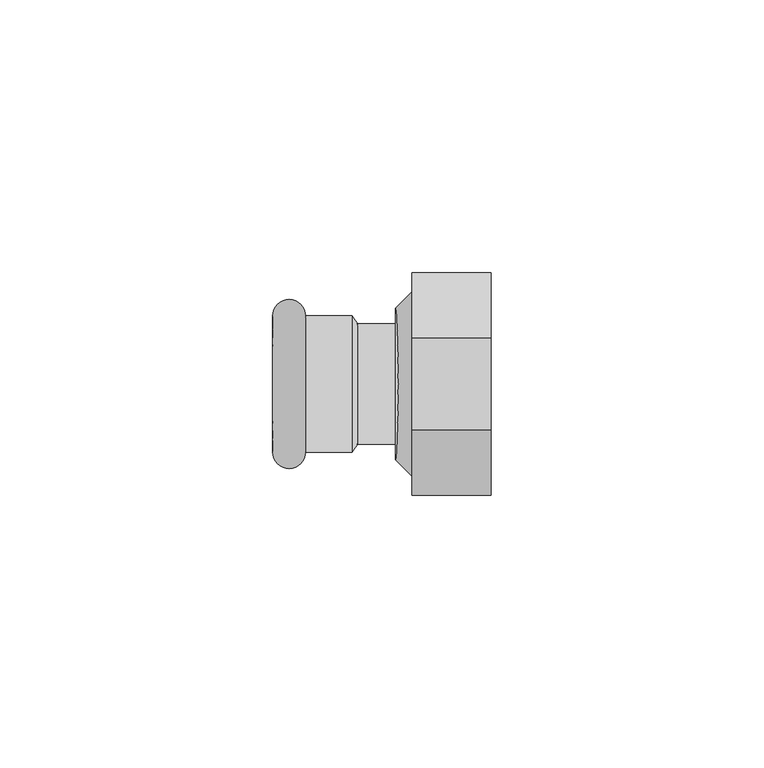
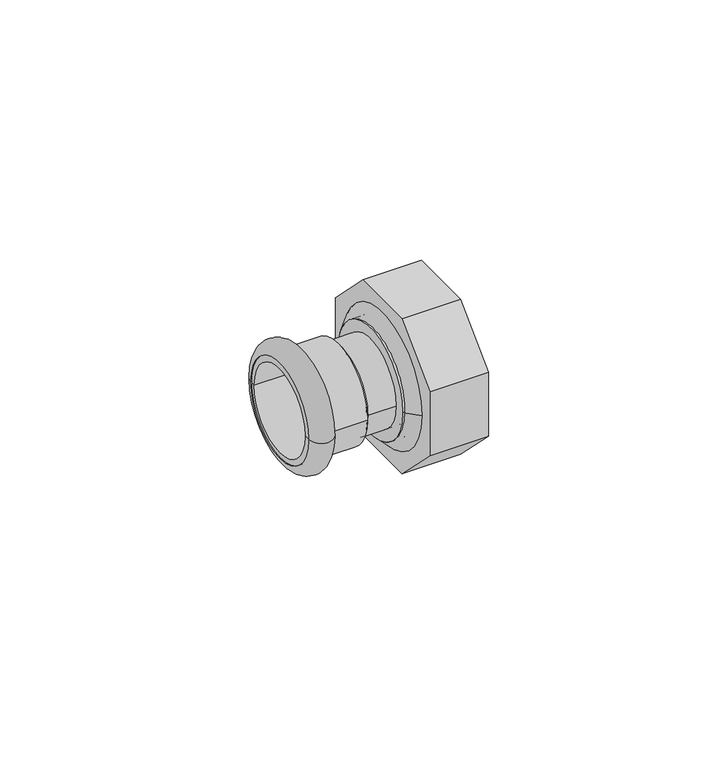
"""IFC4 building model written with IfcOpenShell, lengths in millimetres: pipe fitting geometry."""

from ifc_helpers import new_model, si_unit, point, frame, origin, origin_2d, place, context, project, spatial, polyline, circle_curve, ellipse_curve, trimmed, segment, composite_curve, outline, extrude, source, transform, mapped, element, save
from ifc_brep_helpers import plane_surface, cylinder_surface, revolved_surface, advanced_brep


def pipe_fitting_fde87e36(model_context):
    return source(origin(), model_context, "Body", "SolidModel", [
        advanced_brep(
        [(-20.0, 12.5, 0.0), (-20.0, -12.5, 0.0), (-13.9987073, -12.5, 0.0), (-13.9987073, 12.5, 0.0)],
        [
            (0, 1, circle_curve(frame((-20.0, 0.0, 0.0), z_axis=(-1.0, 0.0, 0.0), x_axis=(0.0, -1.0000000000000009, 0.0)), 12.5)),
            (1, 2),
            (2, 3, circle_curve(frame((-13.9987073, 0.0, 0.0), z_axis=(1.0, 0.0, 0.0), x_axis=(0.0, -1.0000000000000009, 0.0)), 12.5)),
            (3, 0),
            (1, 0, circle_curve(frame((-20.0, 0.0, 0.0), z_axis=(-1.0, 0.0, 0.0), x_axis=(0.0, -1.0000000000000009, 0.0)), 12.5)),
            (3, 2, circle_curve(frame((-13.9987073, 0.0, 0.0), z_axis=(1.0, 0.0, 0.0), x_axis=(0.0, -1.0000000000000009, 0.0)), 12.5)),
            (2, 1, circle_curve(frame((-16.9993536, -12.5, 0.0), z_axis=(0.0, 0.0, -1.0000000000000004), x_axis=(-1.0000000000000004, 0.0, 0.0)), 3.0006464)),
            (0, 3, circle_curve(frame((-16.9993536, 12.5, 0.0), z_axis=(0.0, 0.0, -1.0000000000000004), x_axis=(-1.0000000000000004, 0.0, 0.0)), 3.0006464)),
        ],
        [
            revolved_surface(polyline([(-13.998707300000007, -12.50000000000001, 0.0), (-20.000000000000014, -12.50000000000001, 0.0)]), (-5.5, 0.0, 0.0), (1.0000000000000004, 0.0, 0.0)),
            revolved_surface(trimmed(ellipse_curve(frame((-16.9993536, -12.5, 0.0), z_axis=(0.0, 0.0, 1.0000000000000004), x_axis=(-1.0000000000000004, 0.0, 0.0)), 3.0006464, 3.0006464), [point((-20.0, -12.5, 0.0))], [point((-13.9987073, -12.5, 0.0))], True, "CARTESIAN"), (-5.5, 0.0, 0.0), (1.0000000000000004, 0.0, 0.0)),
        ],
        [
            (0, [[1, 2, 3, 4]]),
            (0, [[5, -4, 6, -2]]),
            (1, [[-3, 7, -1, 8]]),
            (1, [[-6, -8, -5, -7]]),
        ],
    ),
        advanced_brep(
        [(-20.0, 11.0, 0.0), (-20.0, -11.0, 0.0), (-4.5, -11.0, 0.0), (-4.5, 11.0, 0.0), (-20.0, 12.5, 0.0), (-20.0, -12.5, 0.0), (-5.5, 12.5, 0.0), (-5.5, -12.5, 0.0)],
        [
            (0, 1, circle_curve(frame((-20.0, 0.0, 0.0), z_axis=(-1.0, 0.0, 0.0), x_axis=(0.0, -1.0000000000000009, 0.0)), 11.0)),
            (1, 2),
            (2, 3, circle_curve(frame((-4.5, 0.0, 0.0), z_axis=(1.0, 0.0, 0.0), x_axis=(0.0, -1.0000000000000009, 0.0)), 11.0)),
            (3, 0),
            (1, 0, circle_curve(frame((-20.0, 0.0, 0.0), z_axis=(-1.0, 0.0, 0.0), x_axis=(0.0, -1.0000000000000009, 0.0)), 11.0)),
            (3, 2, circle_curve(frame((-4.5, 0.0, 0.0), z_axis=(1.0, 0.0, 0.0), x_axis=(0.0, -1.0000000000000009, 0.0)), 11.0)),
            (4, 5, circle_curve(frame((-20.0, 0.0, 0.0), z_axis=(-1.0, 0.0, 0.0), x_axis=(0.0, -1.0000000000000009, 0.0)), 12.5)),
            (5, 1),
            (0, 4),
            (5, 4, circle_curve(frame((-20.0, 0.0, 0.0), z_axis=(-1.0, 0.0, 0.0), x_axis=(0.0, -1.0000000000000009, 0.0)), 12.5)),
            (6, 7, circle_curve(frame((-5.5, 0.0, 0.0), z_axis=(-1.0, 0.0, 0.0), x_axis=(0.0, -1.0000000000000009, 0.0)), 12.5)),
            (7, 5),
            (4, 6),
            (7, 6, circle_curve(frame((-5.5, 0.0, 0.0), z_axis=(-1.0, 0.0, 0.0), x_axis=(0.0, -1.0000000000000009, 0.0)), 12.5)),
            (2, 7),
            (6, 3),
        ],
        [
            revolved_surface(polyline([(-4.499999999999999, -11.00000000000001, 0.0), (-20.000000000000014, -11.00000000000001, 0.0)]), (-5.5, 0.0, 0.0), (1.0000000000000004, 0.0, 0.0)),
            plane_surface(frame((-20.0, 0.0, 0.0), z_axis=(-1.0, 0.0, 0.0), x_axis=(0.0, -1.0, 0.0))),
            cylinder_surface(frame((-5.5, 0.0, 0.0), z_axis=(1.0000000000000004, 0.0, 0.0), x_axis=(0.0, -1.0000000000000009, 0.0)), 12.5),
            revolved_surface(polyline([(-5.5, -12.5, 0.0), (-4.5, -11.0, 0.0)]), (-5.5, 0.0, 0.0), (1.0000000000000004, 0.0, 0.0)),
        ],
        [
            (0, [[1, 2, 3, 4]]),
            (0, [[5, -4, 6, -2]]),
            (1, [[7, 8, -1, 9]]),
            (1, [[10, -9, -5, -8]]),
            (2, [[11, 12, -7, 13]]),
            (2, [[14, -13, -10, -12]]),
            (3, [[-3, 15, -11, 16]]),
            (3, [[-6, -16, -14, -15]]),
        ],
    ),
        extrude(outline(composite_curve([segment(trimmed(circle_curve(origin_2d(), 13.85), [point((-13.85, 0.0))], [point((13.85, 0.0))], False, "CARTESIAN"), True, "CONTINUOUS"), segment(trimmed(circle_curve(origin_2d(), 13.85), [point((13.85, 0.0))], [point((-13.85, 0.0))], False, "CARTESIAN"), True, "CONTINUOUS")], self_intersect=False), holes=[composite_curve([segment(trimmed(circle_curve(origin_2d(), 11.0), [point((-11.0, 0.0))], [point((11.0, 0.0))], True, "CARTESIAN"), True, "CONTINUOUS"), segment(trimmed(circle_curve(origin_2d(), 11.0), [point((11.0, 0.0))], [point((-11.0, 0.0))], True, "CARTESIAN"), True, "CONTINUOUS")], self_intersect=False)]), frame((2.5, 0.0, 0.0), z_axis=(1.0, 0.0, 0.0), x_axis=(0.0, 1.0, 0.0)), (0.0, 0.0, 1.0), 3.0),
        advanced_brep(
        [(20.0, 20.3397493, 8.425), (20.0, 8.425, 20.3397493), (20.0, -8.425, 20.3397493), (20.0, -20.3397493, 8.425), (20.0, -20.3397493, -8.425), (20.0, -8.425, -20.3397493), (20.0, 8.425, -20.3397493), (20.0, 20.3397493, -8.425), (20.0, -16.85, 0.0), (20.0, 16.85, 0.0), (5.5, 20.3397493, 8.425), (5.5, 20.3397493, -8.425), (5.5, 8.425, -20.3397493), (5.5, -8.425, -20.3397493), (5.5, -20.3397493, -8.425), (5.5, -20.3397493, 8.425), (5.5, -8.425, 20.3397493), (5.5, 8.425, 20.3397493), (5.5, -16.8788231, 0.0), (5.5, 16.8788231, 0.0), (5.5, -16.85, 0.0), (5.5, 16.85, 0.0), (5.5, -13.8788231, 0.0), (5.5, 13.8788231, 0.0), (2.5, -13.8788231, 0.0), (2.5, 13.8788231, 0.0)],
        [
            (0, 1),
            (1, 2),
            (2, 3),
            (3, 4),
            (4, 5),
            (5, 6),
            (6, 7),
            (7, 0),
            (8, 9, circle_curve(frame((20.0, 0.0, 0.0), z_axis=(-1.0, 0.0, 0.0), x_axis=(0.0, 1.0, 0.0)), 16.85)),
            (9, 8, circle_curve(frame((20.0, 0.0, 0.0), z_axis=(-1.0, 0.0, 0.0), x_axis=(0.0, 1.0, 0.0)), 16.85)),
            (10, 11),
            (11, 12),
            (12, 13),
            (13, 14),
            (14, 15),
            (15, 16),
            (16, 17),
            (17, 10),
            (18, 19, circle_curve(frame((5.5, 0.0, 0.0), z_axis=(1.0, 0.0, 0.0), x_axis=(0.0, 1.0, 0.0)), 16.8788231)),
            (19, 18, circle_curve(frame((5.5, 0.0, 0.0), z_axis=(1.0, 0.0, 0.0), x_axis=(0.0, -1.0, 0.0)), 16.8788231)),
            (8, 20),
            (20, 21, circle_curve(frame((5.5, 0.0, 0.0), z_axis=(-1.0, 0.0, 0.0), x_axis=(0.0, 1.0, 0.0)), 16.85)),
            (21, 9),
            (21, 20, circle_curve(frame((5.5, 0.0, 0.0), z_axis=(-1.0, 0.0, 0.0), x_axis=(0.0, 1.0, 0.0)), 16.85)),
            (0, 10),
            (17, 1),
            (16, 2),
            (15, 3),
            (14, 4),
            (13, 5),
            (12, 6),
            (11, 7),
            (22, 23, circle_curve(frame((5.5, 0.0, 0.0), z_axis=(-1.0, 0.0, 0.0), x_axis=(0.0, -1.0, 0.0)), 13.8788231)),
            (23, 22, circle_curve(frame((5.5, 0.0, 0.0), z_axis=(-1.0, 0.0, 0.0), x_axis=(0.0, 1.0, 0.0)), 13.8788231)),
            (24, 25, circle_curve(frame((2.5, 0.0, 0.0), z_axis=(1.0, 0.0, 0.0), x_axis=(0.0, 1.0, 0.0)), 13.8788231)),
            (25, 19),
            (18, 24),
            (23, 25),
            (24, 22),
            (25, 24, circle_curve(frame((2.5, 0.0, 0.0), z_axis=(1.0, 0.0, 0.0), x_axis=(0.0, -1.0, 0.0)), 13.8788231)),
        ],
        [
            plane_surface(frame((20.0, 16.85, 0.0), z_axis=(1.0, 0.0, 0.0), x_axis=(0.0, 0.0, -1.0))),
            plane_surface(frame((5.5, 16.85, 0.0), z_axis=(-1.0, 0.0, 0.0), x_axis=(0.0, 0.0, 1.0))),
            revolved_surface(polyline([(5.5, 16.85, 0.0), (20.0, 16.85, 0.0)]), (5.5, 0.0, 0.0), (-1.0, 0.0, 0.0)),
            plane_surface(frame((20.0, 20.3397493, 8.425), z_axis=(0.0, 0.7071067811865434, 0.7071067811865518), x_axis=(-1.0, 0.0, 0.0))),
            plane_surface(frame((20.0, 8.425, 20.3397493), z_axis=(0.0, 0.0, 1.0), x_axis=(-1.0, 0.0, 0.0))),
            plane_surface(frame((20.0, -8.425, 20.3397493), z_axis=(0.0, -0.7071067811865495, 0.7071067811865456), x_axis=(-1.0, 0.0, 0.0))),
            plane_surface(frame((20.0, -20.3397493, 8.425), z_axis=(0.0, -1.0, 0.0), x_axis=(-1.0, 0.0, 0.0))),
            plane_surface(frame((20.0, -20.3397493, -8.425), z_axis=(0.0, -0.7071067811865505, -0.7071067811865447), x_axis=(-1.0, 0.0, 0.0))),
            plane_surface(frame((20.0, -8.425, -20.3397493), z_axis=(0.0, 0.0, -1.0), x_axis=(-1.0, 0.0, 0.0))),
            plane_surface(frame((20.0, 8.425, -20.3397493), z_axis=(0.0, 0.7071067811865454, -0.7071067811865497), x_axis=(-1.0, 0.0, 0.0))),
            plane_surface(frame((20.0, 20.3397493, -8.425), z_axis=(0.0, 1.0, 0.0), x_axis=(-1.0, 0.0, 0.0))),
            plane_surface(frame((5.5, 0.0, 0.0), z_axis=(1.0, 0.0, 0.0), x_axis=(0.0, -1.0, 0.0))),
            revolved_surface(polyline([(5.5, 16.8788231, 0.0), (2.5, 13.8788231, 0.0)]), (5.5, 0.0, 0.0), (-1.0, 0.0, 0.0)),
            revolved_surface(polyline([(2.5, 13.8788231, 0.0), (5.5, 13.8788231, 0.0)]), (5.5, 0.0, 0.0), (-1.0, 0.0, 0.0)),
            revolved_surface(polyline([(5.5, -16.8788231, 0.0), (2.5, -13.8788231, 0.0)]), (5.5, 0.0, 0.0), (-1.0, 0.0, 0.0)),
            revolved_surface(polyline([(2.5, -13.8788231, 0.0), (5.5, -13.8788231, 0.0)]), (5.5, 0.0, 0.0), (-1.0, 0.0, 0.0)),
        ],
        [
            (0, [[1, 2, 3, 4, 5, 6, 7, 8], [9, 10]]),
            (1, [[11, 12, 13, 14, 15, 16, 17, 18], [19, 20]]),
            (2, [[-9, 21, 22, 23]]),
            (2, [[-10, -23, 24, -21]]),
            (3, [[-1, 25, -18, 26]]),
            (4, [[-2, -26, -17, 27]]),
            (5, [[-3, -27, -16, 28]]),
            (6, [[-4, -28, -15, 29]]),
            (7, [[-5, -29, -14, 30]]),
            (8, [[-6, -30, -13, 31]]),
            (9, [[-7, -31, -12, 32]]),
            (10, [[-8, -32, -11, -25]]),
            (11, [[-22, -24], [33, 34]]),
            (12, [[35, 36, -19, 37]]),
            (13, [[-34, 38, -35, 39]]),
            (14, [[-36, 40, -37, -20]]),
            (15, [[-33, -39, -40, -38]]),
        ],
    ),
        extrude(outline(composite_curve([segment(trimmed(circle_curve(origin_2d(), 11.0), [point((-11.0, 0.0))], [point((11.0, 0.0))], False, "CARTESIAN"), True, "CONTINUOUS"), segment(trimmed(circle_curve(origin_2d(), 11.0), [point((11.0, 0.0))], [point((-11.0, 0.0))], False, "CARTESIAN"), True, "CONTINUOUS")], self_intersect=False)), frame((-5.5, 0.0, 0.0), z_axis=(1.0, 0.0, 0.0), x_axis=(0.0, 1.0, 0.0)), (0.0, 0.0, 1.0), 11.0),
    ])


if __name__ == "__main__":
    model = new_model("IFC4")
    model_context = context("Model", 3, world=origin())
    ifc_project = project(units=[si_unit("LENGTHUNIT", "METRE", prefix="MILLI")], contexts=[model_context])
    site = spatial("IfcSite", under=ifc_project)
    building = spatial("IfcBuilding", under=site)
    placement = place(None, origin())
    pipe_fitting_shape = pipe_fitting_fde87e36(model_context)
    element("IfcPipeFitting", 1, ObjectType="NLRS_50_PIF_UN_Mapress koper overgang met wartel_geb : DN10-80-G3.1/2\" / d12-89-G3.1/2\"", at=placement, inside=building, context=model_context, shape_type="MappedRepresentation", body=[
        mapped(pipe_fitting_shape, transform((0.0, 0.0, 0.0), x_axis=(1.0, 0.0, 0.0), y_axis=(0.0, 1.0, 0.0), z_axis=(0.0, 0.0, 1.0))),
    ])
    save(model, "model.ifc")
